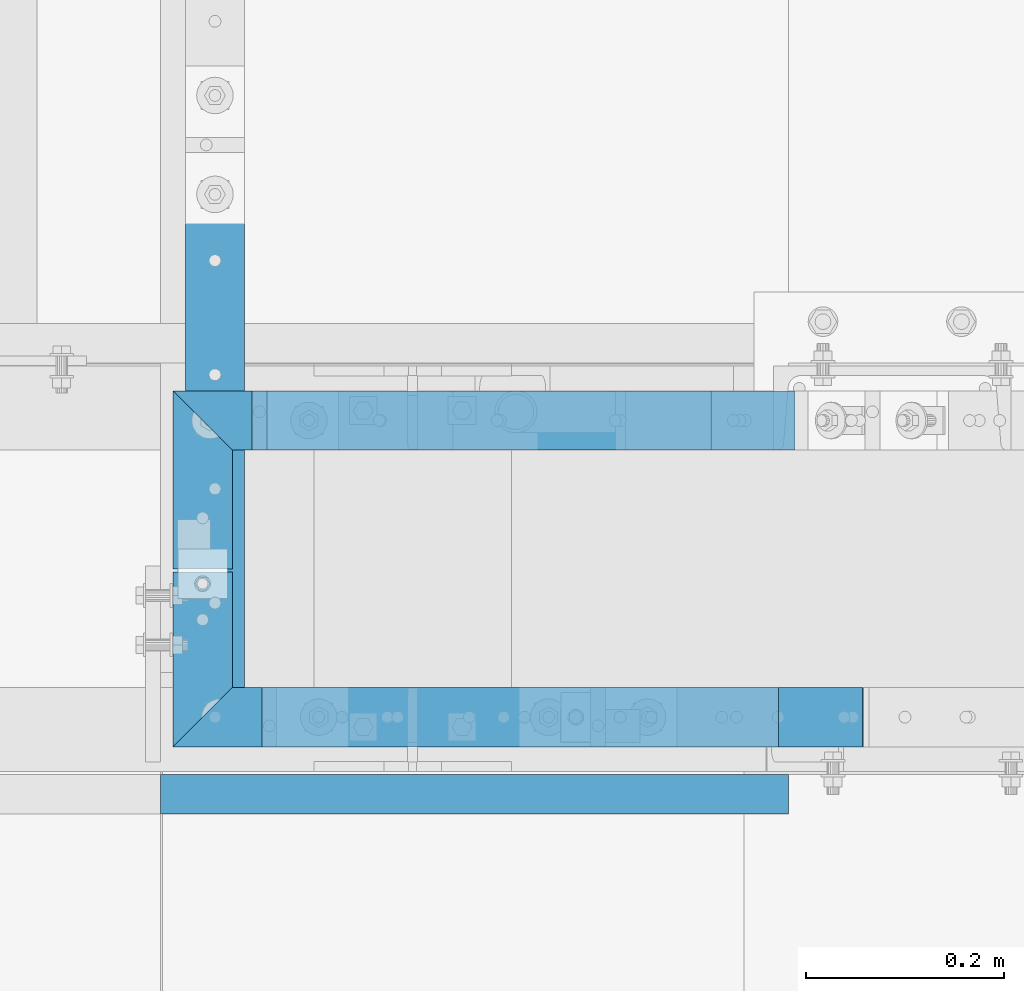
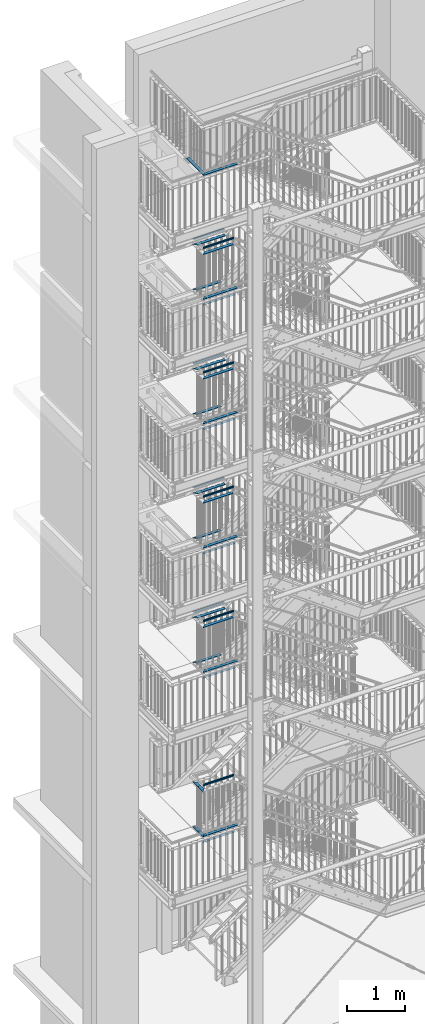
# One storey, part 136 of 831: 47 beams, 15 openings.
"""IFC2X3 building model written with IfcOpenShell, lengths in millimetres."""

from ifc_helpers import new_model, entity, si_unit, converted_unit, frame, frame_2d, origin, origin_with_axes, origin_2d, place, context, project, spatial, polyline, rectangle, circle, hollow_circle, l_section, outline, extrude, clip, halfspace, material, element, save


model = new_model("IFC2X3")

# Units and contexts
model_context = context("Model", 3, precision=1e-09, world=origin_with_axes())
ifc_project = project(units=[si_unit("LENGTHUNIT", "METRE", prefix="MILLI"), si_unit("AREAUNIT", "SQUARE_METRE"), si_unit("VOLUMEUNIT", "CUBIC_METRE"), converted_unit("PLANEANGLEUNIT", "DEGREE", entity("IfcPlaneAngleMeasure", 0.01745329), si_unit("PLANEANGLEUNIT", "RADIAN"), dimensions=[0, 0, 0, 0, 0, 0, 0])], contexts=[model_context])

# Site, building, storey
site_placement = place(None, origin_with_axes())
site = spatial("IfcSite", under=ifc_project, at=site_placement, Name="Site", CompositionType="ELEMENT")
building_placement = place(site_placement, origin_with_axes())
building = spatial("IfcBuilding", under=site, at=building_placement, Name="Struktur 1", CompositionType="ELEMENT")
storey_placement = place(building_placement, origin_with_axes())
storey = spatial("IfcBuildingStorey", under=building, at=storey_placement, Name="Default Storey", CompositionType="ELEMENT", Elevation=0.0)

# Beam, opening
ifc_material = material(Name="S235JR")
beam_1_placement = place(None, frame((4644.213402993, 5748.725345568, 4860.8), z_axis=(0.0, -1.0, 0.0), x_axis=(0.0, 0.0, -1.0)))
beam_1 = element("IfcBeam", 1, at=beam_1_placement, inside=storey, material=ifc_material, Name="Railing_Kneerail_Landing#1007", ObjectType="Railing_Kneerail_Landing#1007", context=model_context, shape_type="Clipping", body=[
    clip(extrude(rectangle(XDim=10.0, YDim=60.0, at=origin_2d()), origin(), (0.0, 0.0, -1.0), 190.011626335), halfspace(frame((4860.8, -5217.975894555, 5174.962854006), z_axis=(0.0, -0.707106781, -0.707106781), x_axis=(0.0, -0.707106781, 0.707106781)), True)),
])
opening_1_placement = place(beam_1_placement, frame((5.5, 0.0, -183.012626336), z_axis=(1.0, 0.0, 0.0), x_axis=(0.0, 1.0, 0.0)))
element("IfcOpeningElement", 2, at=opening_1_placement, cuts=beam_1, ObjectType="Opening", context=model_context, shape_type="SweptSolid", body=[
    extrude(circle(Radius=5.001, at=frame_2d((0.0, 5.001), x_axis=(1.0, 0.0))), origin(), (0.0, 0.0, -1.0), 11.0),
])

# Beam
beam_2_placement = place(None, frame((4644.213402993, 5941.736971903, 4860.8), z_axis=(0.0, -1.0, 0.0), x_axis=(0.0, 0.0, -1.0)))
element("IfcBeam", 3, at=beam_2_placement, inside=storey, material=ifc_material, Name="Railing_Kneerail_Landing#1007", ObjectType="Railing_Kneerail_Landing#1007", context=model_context, shape_type="Clipping", body=[
    clip(extrude(rectangle(XDim=10.0, YDim=60.0, at=origin_2d()), origin(), (0.0, 0.0, -1.0), 193.011626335), halfspace(frame((4860.8, 723.761077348, 573.762491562), z_axis=(0.0, -0.707106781, 0.707106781), x_axis=(0.0, 0.707106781, 0.707106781)), True)),
])

# Beam, opening
beam_3_placement = place(None, frame((4644.213402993, 5748.725345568, 3912.0), z_axis=(0.0, -1.0, 0.0), x_axis=(0.0, 0.0, -1.0)))
beam_3 = element("IfcBeam", 4, at=beam_3_placement, inside=storey, material=ifc_material, Name="Railing_Kneerail_Landing#7", ObjectType="Railing_Kneerail_Landing#7", context=model_context, shape_type="Clipping", body=[
    clip(extrude(rectangle(XDim=10.0, YDim=60.0, at=origin_2d()), origin(), (0.0, 0.0, -1.0), 190.011626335), halfspace(frame((3912.0, -5217.975894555, 5174.962854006), z_axis=(0.0, -0.707106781, -0.707106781), x_axis=(0.0, -0.707106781, 0.707106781)), True)),
])
opening_2_placement = place(beam_3_placement, frame((5.5, 0.0, -183.012626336), z_axis=(1.0, 0.0, 0.0), x_axis=(0.0, 1.0, 0.0)))
element("IfcOpeningElement", 5, at=opening_2_placement, cuts=beam_3, ObjectType="Opening", context=model_context, shape_type="SweptSolid", body=[
    extrude(circle(Radius=5.001, at=frame_2d((0.0, 5.001), x_axis=(1.0, 0.0))), origin(), (0.0, 0.0, -1.0), 11.0),
])

# Beam
beam_4_placement = place(None, frame((4644.213402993, 5941.736971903, 3912.0), z_axis=(0.0, -1.0, 0.0), x_axis=(0.0, 0.0, -1.0)))
element("IfcBeam", 6, at=beam_4_placement, inside=storey, material=ifc_material, Name="Railing_Kneerail_Landing#7", ObjectType="Railing_Kneerail_Landing#7", context=model_context, shape_type="Clipping", body=[
    clip(extrude(rectangle(XDim=10.0, YDim=60.0, at=origin_2d()), origin(), (0.0, 0.0, -1.0), 223.011626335), halfspace(frame((3912.0, 723.761077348, 573.762491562), z_axis=(0.0, -0.707106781, 0.707106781), x_axis=(0.0, 0.707106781, 0.707106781)), True)),
])

# Beam, opening
beam_5_placement = place(None, frame((4656.713402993, 5748.725345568, 17899.0), z_axis=(0.0, -1.0, 0.0), x_axis=(0.0, 0.0, -1.0)))
beam_5 = element("IfcBeam", 7, at=beam_5_placement, inside=storey, material=ifc_material, Name="Railing_Kneerail_Landing#6", ObjectType="Railing_Kneerail_Landing#6", context=model_context, shape_type="Clipping", body=[
    clip(extrude(rectangle(XDim=10.0, YDim=60.0, at=origin_2d()), origin(), (0.0, 0.0, -1.0), 621.761376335), halfspace(frame((17899.0, -5224.225894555, 5181.212854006), z_axis=(0.0, -0.707106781, -0.707106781), x_axis=(0.0, -0.707106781, 0.707106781)), True)),
])
opening_3_placement = place(beam_5_placement, frame((60.0, 30.0, -629.261376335), z_axis=(-1.0, 0.0, 0.0), x_axis=(0.0, 1.0, 0.0)))
element("IfcOpeningElement", 8, at=opening_3_placement, cuts=beam_5, ObjectType="Opening", context=model_context, shape_type="SweptSolid", body=[
    extrude(outline(polyline([(0.001, 0.001), (-60.001, 0.001), (-60.001, -15.001), (0.001, -15.001), (0.001, 0.001)])), origin(), (0.0, 0.0, 1.0), 120.0),
])

# Beams
for number, where, z_axis, x_axis, name in (
    (9, (4601.713402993, 5722.536971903, 9940.8), (-1.0, 0.0, 0.0), (0.0, 0.0, -1.0), "TopLanding#3"),
    (10, (4601.713402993, 5722.536971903, 12567.8), (-1.0, 0.0, 0.0), (0.0, 0.0, -1.0), "TopLanding#3"),
    (11, (4601.713402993, 5722.536971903, 15202.8), (-1.0, 0.0, 0.0), (0.0, 0.0, -1.0), "TopLanding#3"),
    (12, (4601.713402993, 5722.536971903, 3835.8), (-1.0, 0.0, 0.0), (0.0, 0.0, -1.0), "TopLanding#3"),
    (13, (4601.713402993, 5722.536971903, 7308.8), (-1.0, 0.0, 0.0), (0.0, 0.0, -1.0), "TopLanding#3"),
):
    element("IfcBeam", number, at=place(None, frame(where, z_axis=z_axis, x_axis=x_axis)), inside=storey, material=ifc_material, Name=name, ObjectType="TopLanding#3", context=model_context, shape_type="SweptSolid", body=[
        extrude(l_section(Depth=40.0, Width=40.0, Thickness=4.0, FilletRadius=6.0, EdgeRadius=3.0, at=frame_2d((8.8, 8.8))), origin(), (0.0, 0.0, -1.0), 635.0),
    ])
beam_6_placement = place(None, frame((4593.013402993, 6100.536971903, 8460.0), z_axis=(-1.0, 0.0, 0.0), x_axis=(0.0, 0.0, -1.0)))
element("IfcBeam", 14, at=beam_6_placement, inside=storey, material=ifc_material, Name="Railing_Handrail_Landing#2", ObjectType="Railing_Handrail_Landing#2", context=model_context, shape_type="Clipping", body=[
    clip(clip(extrude(hollow_circle(Radius=21.2, WallThickness=3.2, at=origin_2d()), origin(), (0.0, 0.0, -1.0), 675.212622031), halfspace(frame((8460.0, 732.561077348, -774.962491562), z_axis=(0.0, -0.707106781, -0.707106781), x_axis=(0.0, -0.707106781, 0.707106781)), True)), halfspace(frame((6123.567620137, 6100.536971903, -2625.678709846), z_axis=(0.307936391, 0.0, 0.951406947), x_axis=(0.0, 1.0, 0.0)), True)),
])
beam_7_placement = place(None, frame((4558.701776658, 6091.736971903, 7385.0), z_axis=(-1.0, 0.0, 0.0), x_axis=(0.0, 0.0, -1.0)))
element("IfcBeam", 15, at=beam_7_placement, inside=storey, material=ifc_material, Name="Railing_Kneerail_Landing#0", ObjectType="Railing_Kneerail_Landing#0", context=model_context, shape_type="Clipping", body=[
    clip(extrude(rectangle(XDim=10.0, YDim=60.0, at=origin_2d()), origin(), (0.0, 0.0, -1.0), 135.511626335), halfspace(frame((7385.0, 723.761077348, -809.274117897), z_axis=(0.0, -0.707106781, -0.707106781), x_axis=(0.0, -0.707106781, 0.707106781)), True)),
])
beam_8_placement = place(None, frame((4709.213402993, 6091.736971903, 7385.0), z_axis=(-1.0, 0.0, 0.0), x_axis=(0.0, 0.0, -1.0)))
element("IfcBeam", 16, at=beam_8_placement, inside=storey, material=ifc_material, Name="Railing_Kneerail_Landing#1", ObjectType="Railing_Kneerail_Landing#1", context=model_context, shape_type="SweptSolid", body=[
    extrude(rectangle(XDim=10.0, YDim=60.0, at=origin_2d()), origin(), (0.0, 0.0, -1.0), 449.524355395),
])
beam_9_placement = place(None, frame((4593.013402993, 6100.536971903, 11092.0), z_axis=(-1.0, 0.0, 0.0), x_axis=(0.0, 0.0, -1.0)))
element("IfcBeam", 17, at=beam_9_placement, inside=storey, material=ifc_material, Name="Railing_Handrail_Landing#2", ObjectType="Railing_Handrail_Landing#2", context=model_context, shape_type="Clipping", body=[
    clip(clip(extrude(hollow_circle(Radius=21.2, WallThickness=3.2, at=origin_2d()), origin(), (0.0, 0.0, -1.0), 675.208022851), halfspace(frame((11092.0, 732.561077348, -774.962491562), z_axis=(0.0, -0.707106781, -0.707106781), x_axis=(0.0, -0.707106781, 0.707106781)), True)), halfspace(frame((8510.835770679, 6100.536971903, -3394.109290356), z_axis=(0.307506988, 0.0, 0.951545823), x_axis=(0.0, 1.0, 0.0)), True)),
])
beam_10_placement = place(None, frame((4558.701776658, 6091.736971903, 10017.0), z_axis=(-1.0, 0.0, 0.0), x_axis=(0.0, 0.0, -1.0)))
element("IfcBeam", 18, at=beam_10_placement, inside=storey, material=ifc_material, Name="Railing_Kneerail_Landing#0", ObjectType="Railing_Kneerail_Landing#0", context=model_context, shape_type="Clipping", body=[
    clip(extrude(rectangle(XDim=10.0, YDim=60.0, at=origin_2d()), origin(), (0.0, 0.0, -1.0), 135.511626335), halfspace(frame((10017.0, 723.761077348, -809.274117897), z_axis=(0.0, -0.707106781, -0.707106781), x_axis=(0.0, -0.707106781, 0.707106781)), True)),
])
beam_11_placement = place(None, frame((4709.213402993, 6091.736971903, 10017.0), z_axis=(-1.0, 0.0, 0.0), x_axis=(0.0, 0.0, -1.0)))
element("IfcBeam", 19, at=beam_11_placement, inside=storey, material=ifc_material, Name="Railing_Kneerail_Landing#1", ObjectType="Railing_Kneerail_Landing#1", context=model_context, shape_type="SweptSolid", body=[
    extrude(rectangle(XDim=10.0, YDim=60.0, at=origin_2d()), origin(), (0.0, 0.0, -1.0), 449.453961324),
])
beam_12_placement = place(None, frame((4593.013402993, 6100.536971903, 13719.0), z_axis=(-1.0, 0.0, 0.0), x_axis=(0.0, 0.0, -1.0)))
element("IfcBeam", 20, at=beam_12_placement, inside=storey, material=ifc_material, Name="Railing_Handrail_Landing#2", ObjectType="Railing_Handrail_Landing#2", context=model_context, shape_type="Clipping", body=[
    clip(clip(extrude(hollow_circle(Radius=21.2, WallThickness=3.2, at=origin_2d()), origin(), (0.0, 0.0, -1.0), 675.215382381), halfspace(frame((13719.0, 732.561077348, -774.962491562), z_axis=(0.0, -0.707106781, -0.707106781), x_axis=(0.0, -0.707106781, 0.707106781)), True)), halfspace(frame((10880.560986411, 6100.536971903, -4168.599063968), z_axis=(0.308193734, 0.0, 0.951323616), x_axis=(0.0, 1.0, 0.0)), True)),
])
beam_13_placement = place(None, frame((4558.701776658, 6091.736971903, 12644.0), z_axis=(-1.0, 0.0, 0.0), x_axis=(0.0, 0.0, -1.0)))
element("IfcBeam", 21, at=beam_13_placement, inside=storey, material=ifc_material, Name="Railing_Kneerail_Landing#0", ObjectType="Railing_Kneerail_Landing#0", context=model_context, shape_type="Clipping", body=[
    clip(extrude(rectangle(XDim=10.0, YDim=60.0, at=origin_2d()), origin(), (0.0, 0.0, -1.0), 135.511626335), halfspace(frame((12644.0, 723.761077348, -809.274117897), z_axis=(0.0, -0.707106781, -0.707106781), x_axis=(0.0, -0.707106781, 0.707106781)), True)),
])
beam_14_placement = place(None, frame((4709.213402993, 6091.736971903, 12644.0), z_axis=(-1.0, 0.0, 0.0), x_axis=(0.0, 0.0, -1.0)))
element("IfcBeam", 22, at=beam_14_placement, inside=storey, material=ifc_material, Name="Railing_Kneerail_Landing#1", ObjectType="Railing_Kneerail_Landing#1", context=model_context, shape_type="SweptSolid", body=[
    extrude(rectangle(XDim=10.0, YDim=60.0, at=origin_2d()), origin(), (0.0, 0.0, -1.0), 449.566416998),
])
beam_15_placement = place(None, frame((4593.013402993, 6100.536971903, 16354.0), z_axis=(-1.0, 0.0, 0.0), x_axis=(0.0, 0.0, -1.0)))
element("IfcBeam", 23, at=beam_15_placement, inside=storey, material=ifc_material, Name="Railing_Handrail_Landing#2", ObjectType="Railing_Handrail_Landing#2", context=model_context, shape_type="Clipping", body=[
    clip(clip(extrude(hollow_circle(Radius=21.2, WallThickness=3.2, at=origin_2d()), origin(), (0.0, 0.0, -1.0), 675.201586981), halfspace(frame((16354.0, 732.561077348, -774.962491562), z_axis=(0.0, -0.707106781, -0.707106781), x_axis=(0.0, -0.707106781, 0.707106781)), True)), halfspace(frame((13283.997609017, 6100.536971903, -4927.349255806), z_axis=(0.306904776, 0.0, 0.951740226), x_axis=(0.0, 1.0, 0.0)), True)),
])
beam_16_placement = place(None, frame((4558.701776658, 6091.736971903, 15279.0), z_axis=(-1.0, 0.0, 0.0), x_axis=(0.0, 0.0, -1.0)))
element("IfcBeam", 24, at=beam_16_placement, inside=storey, material=ifc_material, Name="Railing_Kneerail_Landing#0", ObjectType="Railing_Kneerail_Landing#0", context=model_context, shape_type="Clipping", body=[
    clip(extrude(rectangle(XDim=10.0, YDim=60.0, at=origin_2d()), origin(), (0.0, 0.0, -1.0), 135.511626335), halfspace(frame((15279.0, 723.761077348, -809.274117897), z_axis=(0.0, -0.707106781, -0.707106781), x_axis=(0.0, -0.707106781, 0.707106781)), True)),
])
beam_17_placement = place(None, frame((4709.213402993, 6091.736971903, 15279.0), z_axis=(-1.0, 0.0, 0.0), x_axis=(0.0, 0.0, -1.0)))
element("IfcBeam", 25, at=beam_17_placement, inside=storey, material=ifc_material, Name="Railing_Kneerail_Landing#1", ObjectType="Railing_Kneerail_Landing#1", context=model_context, shape_type="SweptSolid", body=[
    extrude(rectangle(XDim=10.0, YDim=60.0, at=origin_2d()), origin(), (0.0, 0.0, -1.0), 449.354793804),
])
beam_18_placement = place(None, frame((5268.188799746, 5782.936971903, 4987.0), z_axis=(1.0, 0.0, 0.0), x_axis=(0.0, 0.0, -1.0)))
element("IfcBeam", 26, at=beam_18_placement, inside=storey, material=ifc_material, Name="Railing_Handrail_Landing#4", ObjectType="Railing_Handrail_Landing#4", context=model_context, shape_type="Clipping", body=[
    clip(clip(extrude(hollow_circle(Radius=21.2, WallThickness=3.2, at=origin_2d()), origin(), (0.0, 0.0, -1.0), 675.175396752), halfspace(frame((4987.0, -5209.175894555, -5841.949877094), z_axis=(0.0, -0.707106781, 0.707106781), x_axis=(0.0, 0.707106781, 0.707106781)), True)), halfspace(frame((6043.370805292, -5782.936971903, -1962.993061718), z_axis=(-0.304437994, 0.0, -0.952532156), x_axis=(0.0, -1.0, 0.0)), True)),
])

# Beam, opening
beam_19_placement = place(None, frame((5312.074200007, 5791.736971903, 3912.0), z_axis=(1.0, 0.0, 0.0), x_axis=(0.0, 0.0, -1.0)))
beam_19 = element("IfcBeam", 27, at=beam_19_placement, inside=storey, material=ifc_material, Name="Railing_Kneerail_Landing#5", ObjectType="Railing_Kneerail_Landing#5", context=model_context, shape_type="SweptSolid", body=[
    extrude(rectangle(XDim=10.0, YDim=60.0, at=origin_2d()), origin(), (0.0, 0.0, -1.0), 600.360797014),
])
opening_4_placement = place(beam_19_placement, frame((60.0, 0.0, -600.360797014), z_axis=(-1.0, 0.0, 0.0), x_axis=(0.0, 0.0, 1.0)))
element("IfcOpeningElement", 28, at=opening_4_placement, cuts=beam_19, ObjectType="Opening", context=model_context, shape_type="SweptSolid", body=[
    extrude(outline(polyline([(-7.501, 30.001), (-7.501, -30.001), (7.501, -30.001), (7.501, 30.001), (-7.501, 30.001)])), origin(), (0.0, 0.0, 1.0), 120.0),
])

beam_20_placement = place(None, frame((4711.713402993, 5791.736971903, 3912.0), z_axis=(1.0, 0.0, 0.0), x_axis=(0.0, 0.0, -1.0)))
beam_20 = element("IfcBeam", 29, at=beam_20_placement, inside=storey, material=ifc_material, Name="Railing_Kneerail_Landing#6", ObjectType="Railing_Kneerail_Landing#6", context=model_context, shape_type="Clipping", body=[
    clip(extrude(rectangle(XDim=10.0, YDim=60.0, at=origin_2d()), origin(), (0.0, 0.0, -1.0), 110.511626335), halfspace(frame((3912.0, -5217.975894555, -5285.474480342), z_axis=(0.0, -0.707106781, 0.707106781), x_axis=(0.0, 0.707106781, 0.707106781)), True)),
])
opening_5_placement = place(beam_20_placement, frame((60.0, 0.0, -67.5), z_axis=(-1.0, 0.0, 0.0), x_axis=(0.0, 0.0, 1.0)))
element("IfcOpeningElement", 30, at=opening_5_placement, cuts=beam_20, ObjectType="Opening", context=model_context, shape_type="SweptSolid", body=[
    extrude(outline(polyline([(59.999, 30.001), (59.999, -30.001), (75.001, -30.001), (75.001, 30.001), (59.999, 30.001)])), origin(), (0.0, 0.0, 1.0), 120.0),
])

# Beam
beam_21_placement = place(None, frame((5268.159109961, 5782.936971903, 8460.0), z_axis=(1.0, 0.0, 0.0), x_axis=(0.0, 0.0, -1.0)))
element("IfcBeam", 31, at=beam_21_placement, inside=storey, material=ifc_material, Name="Railing_Handrail_Landing#4", ObjectType="Railing_Handrail_Landing#4", context=model_context, shape_type="Clipping", body=[
    clip(clip(extrude(hollow_circle(Radius=21.2, WallThickness=3.2, at=origin_2d()), origin(), (0.0, 0.0, -1.0), 675.145706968), halfspace(frame((8460.0, -5209.175894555, -5841.92018731), z_axis=(0.0, -0.707106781, 0.707106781), x_axis=(0.0, 0.707106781, 0.707106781)), True)), halfspace(frame((9196.298185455, -5782.936971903, -2940.614561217), z_axis=(-0.301609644, 0.0, -0.953431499), x_axis=(0.0, -1.0, 0.0)), True)),
])

# Beam, opening
beam_22_placement = place(None, frame((5312.589928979, 5791.736971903, 7385.0), z_axis=(1.0, 0.0, 0.0), x_axis=(0.0, 0.0, -1.0)))
beam_22 = element("IfcBeam", 32, at=beam_22_placement, inside=storey, material=ifc_material, Name="Railing_Kneerail_Landing#5", ObjectType="Railing_Kneerail_Landing#5", context=model_context, shape_type="SweptSolid", body=[
    extrude(rectangle(XDim=10.0, YDim=60.0, at=origin_2d()), origin(), (0.0, 0.0, -1.0), 600.876525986),
])
opening_6_placement = place(beam_22_placement, frame((60.0, 0.0, -600.876525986), z_axis=(-1.0, 0.0, 0.0), x_axis=(0.0, 0.0, 1.0)))
element("IfcOpeningElement", 33, at=opening_6_placement, cuts=beam_22, ObjectType="Opening", context=model_context, shape_type="SweptSolid", body=[
    extrude(outline(polyline([(-7.501, 30.001), (-7.501, -30.001), (7.501, -30.001), (7.501, 30.001), (-7.501, 30.001)])), origin(), (0.0, 0.0, 1.0), 120.0),
])

beam_23_placement = place(None, frame((4711.713402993, 5791.736971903, 7385.0), z_axis=(1.0, 0.0, 0.0), x_axis=(0.0, 0.0, -1.0)))
beam_23 = element("IfcBeam", 34, at=beam_23_placement, inside=storey, material=ifc_material, Name="Railing_Kneerail_Landing#6", ObjectType="Railing_Kneerail_Landing#6", context=model_context, shape_type="Clipping", body=[
    clip(extrude(rectangle(XDim=10.0, YDim=60.0, at=origin_2d()), origin(), (0.0, 0.0, -1.0), 110.511626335), halfspace(frame((7385.0, -5217.975894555, -5285.474480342), z_axis=(0.0, -0.707106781, 0.707106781), x_axis=(0.0, 0.707106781, 0.707106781)), True)),
])
opening_7_placement = place(beam_23_placement, frame((60.0, 0.0, -67.5), z_axis=(-1.0, 0.0, 0.0), x_axis=(0.0, 0.0, 1.0)))
element("IfcOpeningElement", 35, at=opening_7_placement, cuts=beam_23, ObjectType="Opening", context=model_context, shape_type="SweptSolid", body=[
    extrude(outline(polyline([(59.999, 30.001), (59.999, -30.001), (75.001, -30.001), (75.001, 30.001), (59.999, 30.001)])), origin(), (0.0, 0.0, 1.0), 120.0),
])

# Beam
beam_24_placement = place(None, frame((5268.226025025, 5782.936971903, 11092.0), z_axis=(1.0, 0.0, 0.0), x_axis=(0.0, 0.0, -1.0)))
element("IfcBeam", 36, at=beam_24_placement, inside=storey, material=ifc_material, Name="Railing_Handrail_Landing#4", ObjectType="Railing_Handrail_Landing#4", context=model_context, shape_type="Clipping", body=[
    clip(clip(extrude(hollow_circle(Radius=21.2, WallThickness=3.2, at=origin_2d()), origin(), (0.0, 0.0, -1.0), 675.212622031), halfspace(frame((11092.0, -5209.175894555, -5841.987102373), z_axis=(0.0, -0.707106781, 0.707106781), x_axis=(0.0, 0.707106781, 0.707106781)), True)), halfspace(frame((11574.417480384, -5782.936971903, -3777.738523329), z_axis=(-0.307936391, 0.0, -0.951406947), x_axis=(0.0, -1.0, 0.0)), True)),
])

# Beam, opening
beam_25_placement = place(None, frame((5311.45240536, 5791.736971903, 10017.0), z_axis=(1.0, 0.0, 0.0), x_axis=(0.0, 0.0, -1.0)))
beam_25 = element("IfcBeam", 37, at=beam_25_placement, inside=storey, material=ifc_material, Name="Railing_Kneerail_Landing#4", ObjectType="Railing_Kneerail_Landing#4", context=model_context, shape_type="SweptSolid", body=[
    extrude(rectangle(XDim=10.0, YDim=60.0, at=origin_2d()), origin(), (0.0, 0.0, -1.0), 599.739002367),
])
opening_8_placement = place(beam_25_placement, frame((60.0, 0.0, -599.739002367), z_axis=(-1.0, 0.0, 0.0), x_axis=(0.0, 0.0, 1.0)))
element("IfcOpeningElement", 38, at=opening_8_placement, cuts=beam_25, ObjectType="Opening", context=model_context, shape_type="SweptSolid", body=[
    extrude(outline(polyline([(-7.501, 30.001), (-7.501, -30.001), (7.501, -30.001), (7.501, 30.001), (-7.501, 30.001)])), origin(), (0.0, 0.0, 1.0), 120.0),
])

beam_26_placement = place(None, frame((4711.713402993, 5791.736971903, 10017.0), z_axis=(1.0, 0.0, 0.0), x_axis=(0.0, 0.0, -1.0)))
beam_26 = element("IfcBeam", 39, at=beam_26_placement, inside=storey, material=ifc_material, Name="Railing_Kneerail_Landing#5", ObjectType="Railing_Kneerail_Landing#5", context=model_context, shape_type="Clipping", body=[
    clip(extrude(rectangle(XDim=10.0, YDim=60.0, at=origin_2d()), origin(), (0.0, 0.0, -1.0), 110.511626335), halfspace(frame((10017.0, -5217.975894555, -5285.474480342), z_axis=(0.0, -0.707106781, 0.707106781), x_axis=(0.0, 0.707106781, 0.707106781)), True)),
])
opening_9_placement = place(beam_26_placement, frame((60.0, 0.0, -67.5), z_axis=(-1.0, 0.0, 0.0), x_axis=(0.0, 0.0, 1.0)))
element("IfcOpeningElement", 40, at=opening_9_placement, cuts=beam_26, ObjectType="Opening", context=model_context, shape_type="SweptSolid", body=[
    extrude(outline(polyline([(59.999, 30.001), (59.999, -30.001), (75.001, -30.001), (75.001, 30.001), (59.999, 30.001)])), origin(), (0.0, 0.0, 1.0), 120.0),
])

# Beam
beam_27_placement = place(None, frame((5268.221425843, 5782.936971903, 13719.0), z_axis=(1.0, 0.0, 0.0), x_axis=(0.0, 0.0, -1.0)))
element("IfcBeam", 41, at=beam_27_placement, inside=storey, material=ifc_material, Name="Railing_Handrail_Landing#4", ObjectType="Railing_Handrail_Landing#4", context=model_context, shape_type="Clipping", body=[
    clip(clip(extrude(hollow_circle(Radius=21.2, WallThickness=3.2, at=origin_2d()), origin(), (0.0, 0.0, -1.0), 675.20802285), halfspace(frame((13719.0, -5209.175894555, -5841.982503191), z_axis=(0.0, -0.707106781, 0.707106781), x_axis=(0.0, 0.707106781, 0.707106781)), True)), halfspace(frame((13954.022486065, -5782.936971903, -4540.97074906), z_axis=(-0.307506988, 0.0, -0.951545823), x_axis=(0.0, -1.0, 0.0)), True)),
])

# Beam, opening
beam_28_placement = place(None, frame((5311.527784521, 5791.736971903, 12644.0), z_axis=(1.0, 0.0, 0.0), x_axis=(0.0, 0.0, -1.0)))
beam_28 = element("IfcBeam", 42, at=beam_28_placement, inside=storey, material=ifc_material, Name="Railing_Kneerail_Landing#4", ObjectType="Railing_Kneerail_Landing#4", context=model_context, shape_type="SweptSolid", body=[
    extrude(rectangle(XDim=10.0, YDim=60.0, at=origin_2d()), origin(), (0.0, 0.0, -1.0), 599.814381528),
])
opening_10_placement = place(beam_28_placement, frame((60.0, 0.0, -599.814381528), z_axis=(-1.0, 0.0, 0.0), x_axis=(0.0, 0.0, 1.0)))
element("IfcOpeningElement", 43, at=opening_10_placement, cuts=beam_28, ObjectType="Opening", context=model_context, shape_type="SweptSolid", body=[
    extrude(outline(polyline([(-7.501, 30.001), (-7.501, -30.001), (7.501, -30.001), (7.501, 30.001), (-7.501, 30.001)])), origin(), (0.0, 0.0, 1.0), 120.0),
])

beam_29_placement = place(None, frame((4711.713402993, 5791.736971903, 12644.0), z_axis=(1.0, 0.0, 0.0), x_axis=(0.0, 0.0, -1.0)))
beam_29 = element("IfcBeam", 44, at=beam_29_placement, inside=storey, material=ifc_material, Name="Railing_Kneerail_Landing#5", ObjectType="Railing_Kneerail_Landing#5", context=model_context, shape_type="Clipping", body=[
    clip(extrude(rectangle(XDim=10.0, YDim=60.0, at=origin_2d()), origin(), (0.0, 0.0, -1.0), 110.511626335), halfspace(frame((12644.0, -5217.975894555, -5285.474480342), z_axis=(0.0, -0.707106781, 0.707106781), x_axis=(0.0, 0.707106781, 0.707106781)), True)),
])
opening_11_placement = place(beam_29_placement, frame((60.0, 0.0, -67.5), z_axis=(-1.0, 0.0, 0.0), x_axis=(0.0, 0.0, 1.0)))
element("IfcOpeningElement", 45, at=opening_11_placement, cuts=beam_29, ObjectType="Opening", context=model_context, shape_type="SweptSolid", body=[
    extrude(outline(polyline([(59.999, 30.001), (59.999, -30.001), (75.001, -30.001), (75.001, 30.001), (59.999, 30.001)])), origin(), (0.0, 0.0, 1.0), 120.0),
])

# Beam
beam_30_placement = place(None, frame((5268.228785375, 5782.936971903, 16354.0), z_axis=(1.0, 0.0, 0.0), x_axis=(0.0, 0.0, -1.0)))
element("IfcBeam", 46, at=beam_30_placement, inside=storey, material=ifc_material, Name="Railing_Handrail_Landing#4", ObjectType="Railing_Handrail_Landing#4", context=model_context, shape_type="Clipping", body=[
    clip(clip(extrude(hollow_circle(Radius=21.2, WallThickness=3.2, at=origin_2d()), origin(), (0.0, 0.0, -1.0), 675.215382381), halfspace(frame((16354.0, -5209.175894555, -5841.989862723), z_axis=(0.0, -0.707106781, 0.707106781), x_axis=(0.0, 0.707106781, 0.707106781)), True)), halfspace(frame((16336.003889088, -5782.936971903, -5323.778666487), z_axis=(-0.308193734, 0.0, -0.951323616), x_axis=(0.0, -1.0, 0.0)), True)),
])

# Beam, opening
beam_31_placement = place(None, frame((5311.40735514, 5791.736971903, 15279.0), z_axis=(1.0, 0.0, 0.0), x_axis=(0.0, 0.0, -1.0)))
beam_31 = element("IfcBeam", 47, at=beam_31_placement, inside=storey, material=ifc_material, Name="Railing_Kneerail_Landing#4", ObjectType="Railing_Kneerail_Landing#4", context=model_context, shape_type="SweptSolid", body=[
    extrude(rectangle(XDim=10.0, YDim=60.0, at=origin_2d()), origin(), (0.0, 0.0, -1.0), 599.693952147),
])
opening_12_placement = place(beam_31_placement, frame((60.0, 0.0, -599.693952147), z_axis=(-1.0, 0.0, 0.0), x_axis=(0.0, 0.0, 1.0)))
element("IfcOpeningElement", 48, at=opening_12_placement, cuts=beam_31, ObjectType="Opening", context=model_context, shape_type="SweptSolid", body=[
    extrude(outline(polyline([(-7.501, 30.001), (-7.501, -30.001), (7.501, -30.001), (7.501, 30.001), (-7.501, 30.001)])), origin(), (0.0, 0.0, 1.0), 120.0),
])

beam_32_placement = place(None, frame((4711.713402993, 5791.736971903, 15279.0), z_axis=(1.0, 0.0, 0.0), x_axis=(0.0, 0.0, -1.0)))
beam_32 = element("IfcBeam", 49, at=beam_32_placement, inside=storey, material=ifc_material, Name="Railing_Kneerail_Landing#5", ObjectType="Railing_Kneerail_Landing#5", context=model_context, shape_type="Clipping", body=[
    clip(extrude(rectangle(XDim=10.0, YDim=60.0, at=origin_2d()), origin(), (0.0, 0.0, -1.0), 110.511626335), halfspace(frame((15279.0, -5217.975894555, -5285.474480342), z_axis=(0.0, -0.707106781, 0.707106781), x_axis=(0.0, 0.707106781, 0.707106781)), True)),
])
opening_13_placement = place(beam_32_placement, frame((60.0, 0.0, -67.5), z_axis=(-1.0, 0.0, 0.0), x_axis=(0.0, 0.0, 1.0)))
element("IfcOpeningElement", 50, at=opening_13_placement, cuts=beam_32, ObjectType="Opening", context=model_context, shape_type="SweptSolid", body=[
    extrude(outline(polyline([(59.999, 30.001), (59.999, -30.001), (75.001, -30.001), (75.001, 30.001), (59.999, 30.001)])), origin(), (0.0, 0.0, 1.0), 120.0),
])

beam_33_placement = place(None, frame((5311.633939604, 5791.736971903, 17899.0), z_axis=(1.0, 0.0, 0.0), x_axis=(0.0, 0.0, -1.0)))
beam_33 = element("IfcBeam", 51, at=beam_33_placement, inside=storey, material=ifc_material, Name="Railing_Kneerail_Landing#4", ObjectType="Railing_Kneerail_Landing#4", context=model_context, shape_type="SweptSolid", body=[
    extrude(rectangle(XDim=10.0, YDim=60.0, at=origin_2d()), origin(), (0.0, 0.0, -1.0), 267.420036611),
])
opening_14_placement = place(beam_33_placement, frame((60.0, 0.0, -267.420036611), z_axis=(-1.0, 0.0, 0.0), x_axis=(0.0, 0.0, 1.0)))
element("IfcOpeningElement", 52, at=opening_14_placement, cuts=beam_33, ObjectType="Opening", context=model_context, shape_type="SweptSolid", body=[
    extrude(outline(polyline([(-7.501, 30.001), (-7.501, -30.001), (7.501, -30.001), (7.501, 30.001), (-7.501, 30.001)])), origin(), (0.0, 0.0, 1.0), 120.0),
])

beam_34_placement = place(None, frame((5033.713902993, 5791.736971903, 17899.0), z_axis=(1.0, 0.0, 0.0), x_axis=(0.0, 0.0, -1.0)))
beam_34 = element("IfcBeam", 53, at=beam_34_placement, inside=storey, material=ifc_material, Name="Railing_Kneerail_Landing#5", ObjectType="Railing_Kneerail_Landing#5", context=model_context, shape_type="Clipping", body=[
    clip(extrude(rectangle(XDim=10.0, YDim=60.0, at=origin_2d()), origin(), (0.0, 0.0, -1.0), 420.012126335), halfspace(frame((17899.0, -5224.225894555, -5601.224980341), z_axis=(0.0, -0.707106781, 0.707106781), x_axis=(0.0, 0.707106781, 0.707106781)), True)),
])
opening_15_placement = place(beam_34_placement, frame((5.5, 0.0, -6.998999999), z_axis=(1.0, 0.0, 0.0), x_axis=(0.0, 1.0, 0.0)))
element("IfcOpeningElement", 54, at=opening_15_placement, cuts=beam_34, ObjectType="Opening", context=model_context, shape_type="SweptSolid", body=[
    extrude(circle(Radius=5.001, at=frame_2d((0.0, -5.001), x_axis=(1.0, 0.0))), origin(), (0.0, 0.0, -1.0), 11.0),
])

# Beams
beam_35_placement = place(None, frame((4558.701776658, 6091.736971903, 16227.8), z_axis=(-1.0, 0.0, 0.0), x_axis=(0.0, 0.0, -1.0)))
element("IfcBeam", 55, at=beam_35_placement, inside=storey, material=ifc_material, Name="Railing_Kneerail_Landing#1001", ObjectType="Railing_Kneerail_Landing#1001", context=model_context, shape_type="Clipping", body=[
    clip(extrude(rectangle(XDim=10.0, YDim=60.0, at=origin_2d()), origin(), (0.0, 0.0, -1.0), 684.847925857), halfspace(frame((16227.8, 723.761077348, -809.274117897), z_axis=(0.0, -0.707106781, -0.707106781), x_axis=(0.0, -0.707106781, 0.707106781)), True)),
])
beam_36_placement = place(None, frame((5226.605754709, 5791.736971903, 16227.8), z_axis=(1.0, 0.0, 0.0), x_axis=(0.0, 0.0, -1.0)))
element("IfcBeam", 56, at=beam_36_placement, inside=storey, material=ifc_material, Name="Railing_Kneerail_Landing#1005", ObjectType="Railing_Kneerail_Landing#1005", context=model_context, shape_type="Clipping", body=[
    clip(extrude(rectangle(XDim=10.0, YDim=60.0, at=origin_2d()), origin(), (0.0, 0.0, -1.0), 625.403978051), halfspace(frame((16227.8, -5217.975894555, -5800.366832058), z_axis=(0.0, -0.707106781, 0.707106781), x_axis=(0.0, 0.707106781, 0.707106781)), True)),
])
beam_37_placement = place(None, frame((4558.701776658, 6091.736971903, 13592.8), z_axis=(-1.0, 0.0, 0.0), x_axis=(0.0, 0.0, -1.0)))
element("IfcBeam", 57, at=beam_37_placement, inside=storey, material=ifc_material, Name="Railing_Kneerail_Landing#1001", ObjectType="Railing_Kneerail_Landing#1001", context=model_context, shape_type="Clipping", body=[
    clip(extrude(rectangle(XDim=10.0, YDim=60.0, at=origin_2d()), origin(), (0.0, 0.0, -1.0), 684.879643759), halfspace(frame((13592.8, 723.761077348, -809.274117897), z_axis=(0.0, -0.707106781, -0.707106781), x_axis=(0.0, -0.707106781, 0.707106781)), True)),
])
beam_38_placement = place(None, frame((5226.630632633, 5791.736971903, 13592.8), z_axis=(1.0, 0.0, 0.0), x_axis=(0.0, 0.0, -1.0)))
element("IfcBeam", 58, at=beam_38_placement, inside=storey, material=ifc_material, Name="Railing_Kneerail_Landing#1005", ObjectType="Railing_Kneerail_Landing#1005", context=model_context, shape_type="Clipping", body=[
    clip(extrude(rectangle(XDim=10.0, YDim=60.0, at=origin_2d()), origin(), (0.0, 0.0, -1.0), 625.428855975), halfspace(frame((13592.8, -5217.975894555, -5800.391709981), z_axis=(0.0, -0.707106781, 0.707106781), x_axis=(0.0, 0.707106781, 0.707106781)), True)),
])
beam_39_placement = place(None, frame((4558.701776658, 6091.736971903, 10965.8), z_axis=(-1.0, 0.0, 0.0), x_axis=(0.0, 0.0, -1.0)))
element("IfcBeam", 59, at=beam_39_placement, inside=storey, material=ifc_material, Name="Railing_Kneerail_Landing#1001", ObjectType="Railing_Kneerail_Landing#1001", context=model_context, shape_type="Clipping", body=[
    clip(extrude(rectangle(XDim=10.0, YDim=60.0, at=origin_2d()), origin(), (0.0, 0.0, -1.0), 684.862739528), halfspace(frame((10965.8, 723.761077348, -809.274117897), z_axis=(0.0, -0.707106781, -0.707106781), x_axis=(0.0, -0.707106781, 0.707106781)), True)),
])
beam_40_placement = place(None, frame((5226.61507921, 5791.736971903, 10965.8), z_axis=(1.0, 0.0, 0.0), x_axis=(0.0, 0.0, -1.0)))
element("IfcBeam", 60, at=beam_40_placement, inside=storey, material=ifc_material, Name="Railing_Kneerail_Landing#1005", ObjectType="Railing_Kneerail_Landing#1005", context=model_context, shape_type="Clipping", body=[
    clip(extrude(rectangle(XDim=10.0, YDim=60.0, at=origin_2d()), origin(), (0.0, 0.0, -1.0), 625.413302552), halfspace(frame((10965.8, -5217.975894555, -5800.376156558), z_axis=(0.0, -0.707106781, 0.707106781), x_axis=(0.0, 0.707106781, 0.707106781)), True)),
])
beam_41_placement = place(None, frame((4558.701776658, 6091.736971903, 8333.8), z_axis=(-1.0, 0.0, 0.0), x_axis=(0.0, 0.0, -1.0)))
element("IfcBeam", 61, at=beam_41_placement, inside=storey, material=ifc_material, Name="Railing_Kneerail_Landing#1001", ObjectType="Railing_Kneerail_Landing#1001", context=model_context, shape_type="Clipping", body=[
    clip(extrude(rectangle(XDim=10.0, YDim=60.0, at=origin_2d()), origin(), (0.0, 0.0, -1.0), 684.873307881), halfspace(frame((8333.8, 723.761077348, -809.274117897), z_axis=(0.0, -0.707106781, -0.707106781), x_axis=(0.0, -0.707106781, 0.707106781)), True)),
])
beam_42_placement = place(None, frame((5226.843558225, 5791.736971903, 8333.8), z_axis=(1.0, 0.0, 0.0), x_axis=(0.0, 0.0, -1.0)))
element("IfcBeam", 62, at=beam_42_placement, inside=storey, material=ifc_material, Name="Railing_Kneerail_Landing#1006", ObjectType="Railing_Kneerail_Landing#1006", context=model_context, shape_type="Clipping", body=[
    clip(extrude(rectangle(XDim=10.0, YDim=60.0, at=origin_2d()), origin(), (0.0, 0.0, -1.0), 625.641781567), halfspace(frame((8333.8, -5217.975894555, -5800.604635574), z_axis=(0.0, -0.707106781, 0.707106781), x_axis=(0.0, 0.707106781, 0.707106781)), True)),
])

save(model, "model.ifc")
